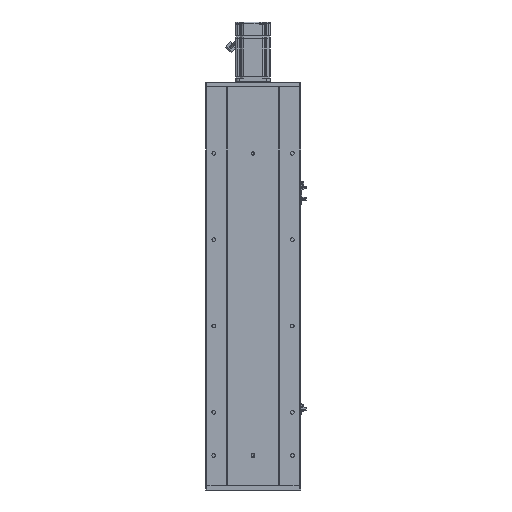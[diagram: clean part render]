
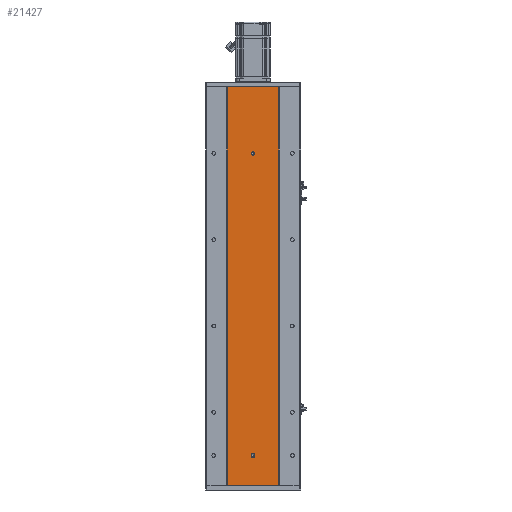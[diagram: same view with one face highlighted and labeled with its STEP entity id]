
A CAD part, front view. The second image highlights one B-rep face of the part: STEP entity #21427.
In plain terms, the highlighted planar face has unit normal (0, -1, 0).
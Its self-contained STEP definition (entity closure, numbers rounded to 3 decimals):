
#591 = ORIENTED_EDGE ( 'NONE', *, *, #30697, .F. ) ;
#650 = VERTEX_POINT ( 'NONE', #11147 ) ;
#695 = ORIENTED_EDGE ( 'NONE', *, *, #42578, .F. ) ;
#815 = CARTESIAN_POINT ( 'NONE',  ( -60., 0., 0. ) ) ;
#1606 = DIRECTION ( 'NONE',  ( 0., -1., 0. ) ) ;
#1721 = VECTOR ( 'NONE', #19203, 1000. ) ;
#2034 = VERTEX_POINT ( 'NONE', #43930 ) ;
#4707 = EDGE_CURVE ( 'NONE', #29136, #2034, #42399, .T. ) ;
#4745 = DIRECTION ( 'NONE',  ( 0., -1., 0. ) ) ;
#5155 = VECTOR ( 'NONE', #38009, 1000. ) ;
#5373 = DIRECTION ( 'NONE',  ( 0., -1., 0. ) ) ;
#5827 = VECTOR ( 'NONE', #40638, 1000. ) ;
#6574 = CARTESIAN_POINT ( 'NONE',  ( 60., 0., 0. ) ) ;
#6591 = AXIS2_PLACEMENT_3D ( 'NONE', #36197, #5373, #41374 ) ;
#8209 = EDGE_CURVE ( 'NONE', #54592, #11079, #56468, .T. ) ;
#8349 = DIRECTION ( 'NONE',  ( 0., 1., 0. ) ) ;
#8671 = DIRECTION ( 'NONE',  ( 0., 0., -1. ) ) ;
#9324 = CARTESIAN_POINT ( 'NONE',  ( -60., 0., 924. ) ) ;
#9768 = ORIENTED_EDGE ( 'NONE', *, *, #8209, .F. ) ;
#10202 = VERTEX_POINT ( 'NONE', #6574 ) ;
#11079 = VERTEX_POINT ( 'NONE', #45004 ) ;
#11147 = CARTESIAN_POINT ( 'NONE',  ( 0., 0., 766. ) ) ;
#11238 = CARTESIAN_POINT ( 'NONE',  ( 0., 0., 770. ) ) ;
#11879 = VERTEX_POINT ( 'NONE', #45952 ) ;
#11957 = DIRECTION ( 'NONE',  ( 1., 0., 0. ) ) ;
#11962 = FACE_BOUND ( 'NONE', #25524, .T. ) ;
#13268 = CARTESIAN_POINT ( 'NONE',  ( 0., 0., 64.5 ) ) ;
#14228 = CARTESIAN_POINT ( 'NONE',  ( 60., 0., 924. ) ) ;
#14562 = ORIENTED_EDGE ( 'NONE', *, *, #60592, .F. ) ;
#16592 = EDGE_CURVE ( 'NONE', #52681, #29136, #27369, .T. ) ;
#17605 = AXIS2_PLACEMENT_3D ( 'NONE', #57618, #1606, #26849 ) ;
#18481 = DIRECTION ( 'NONE',  ( 0., 0., 1. ) ) ;
#18602 = CARTESIAN_POINT ( 'NONE',  ( -4., 0., 71.5 ) ) ;
#19203 = DIRECTION ( 'NONE',  ( 0., 0., -1. ) ) ;
#21270 = ORIENTED_EDGE ( 'NONE', *, *, #16592, .F. ) ;
#21362 = DIRECTION ( 'NONE',  ( 0., -1., 0. ) ) ;
#21427 = ADVANCED_FACE ( 'NONE', ( #25622, #11962, #64999 ), #55137, .F. ) ;
#21935 = ORIENTED_EDGE ( 'NONE', *, *, #49654, .F. ) ;
#23040 = EDGE_LOOP ( 'NONE', ( #14562, #21935 ) ) ;
#25064 = AXIS2_PLACEMENT_3D ( 'NONE', #26859, #58057, #57844 ) ;
#25216 = CARTESIAN_POINT ( 'NONE',  ( 0., 0., 68.5 ) ) ;
#25524 = EDGE_LOOP ( 'NONE', ( #591, #28639, #21270, #37279, #62823 ) ) ;
#25622 = FACE_BOUND ( 'NONE', #23040, .T. ) ;
#26692 = LINE ( 'NONE', #9324, #1721 ) ;
#26849 = DIRECTION ( 'NONE',  ( 0., 0., -1. ) ) ;
#26859 = CARTESIAN_POINT ( 'NONE',  ( 0., 0., 71.5 ) ) ;
#27108 = EDGE_CURVE ( 'NONE', #32762, #52681, #53762, .T. ) ;
#27228 = CIRCLE ( 'NONE', #17605, 4. ) ;
#27369 = LINE ( 'NONE', #41181, #36220 ) ;
#28639 = ORIENTED_EDGE ( 'NONE', *, *, #4707, .F. ) ;
#29136 = VERTEX_POINT ( 'NONE', #29708 ) ;
#29708 = CARTESIAN_POINT ( 'NONE',  ( 4., 0., 71.5 ) ) ;
#30697 = EDGE_CURVE ( 'NONE', #2034, #11879, #42464, .T. ) ;
#31138 = CARTESIAN_POINT ( 'NONE',  ( 4., 0., 68.5 ) ) ;
#31588 = LINE ( 'NONE', #815, #5827 ) ;
#31695 = DIRECTION ( 'NONE',  ( 0., 0., -1. ) ) ;
#32189 = CARTESIAN_POINT ( 'NONE',  ( -60., 0., 924. ) ) ;
#32762 = VERTEX_POINT ( 'NONE', #13268 ) ;
#32965 = ORIENTED_EDGE ( 'NONE', *, *, #55811, .T. ) ;
#35889 = CARTESIAN_POINT ( 'NONE',  ( -60., 0., 924. ) ) ;
#36197 = CARTESIAN_POINT ( 'NONE',  ( 0., 0., 68.5 ) ) ;
#36220 = VECTOR ( 'NONE', #61823, 1000. ) ;
#37279 = ORIENTED_EDGE ( 'NONE', *, *, #27108, .F. ) ;
#38009 = DIRECTION ( 'NONE',  ( 0., 0., -1. ) ) ;
#38088 = AXIS2_PLACEMENT_3D ( 'NONE', #11238, #21362, #31695 ) ;
#39177 = ORIENTED_EDGE ( 'NONE', *, *, #56177, .T. ) ;
#40638 = DIRECTION ( 'NONE',  ( 1., 0., 0. ) ) ;
#41181 = CARTESIAN_POINT ( 'NONE',  ( 4., 0., 71.5 ) ) ;
#41374 = DIRECTION ( 'NONE',  ( 0., 0., -1. ) ) ;
#42113 = VERTEX_POINT ( 'NONE', #51082 ) ;
#42399 = CIRCLE ( 'NONE', #25064, 4. ) ;
#42464 = LINE ( 'NONE', #18602, #45507 ) ;
#42578 = EDGE_CURVE ( 'NONE', #11079, #10202, #53434, .T. ) ;
#42786 = VECTOR ( 'NONE', #11957, 1000. ) ;
#43930 = CARTESIAN_POINT ( 'NONE',  ( -4., 0., 71.5 ) ) ;
#45004 = CARTESIAN_POINT ( 'NONE',  ( 60., 0., 924. ) ) ;
#45507 = VECTOR ( 'NONE', #8671, 1000. ) ;
#45952 = CARTESIAN_POINT ( 'NONE',  ( -4., 0., 68.5 ) ) ;
#49654 = EDGE_CURVE ( 'NONE', #42113, #650, #55759, .T. ) ;
#51082 = CARTESIAN_POINT ( 'NONE',  ( 0., 0., 774. ) ) ;
#51953 = AXIS2_PLACEMENT_3D ( 'NONE', #54476, #8349, #18481 ) ;
#52681 = VERTEX_POINT ( 'NONE', #31138 ) ;
#53434 = LINE ( 'NONE', #14228, #5155 ) ;
#53762 = CIRCLE ( 'NONE', #6591, 4. ) ;
#54355 = AXIS2_PLACEMENT_3D ( 'NONE', #25216, #4745, #66557 ) ;
#54476 = CARTESIAN_POINT ( 'NONE',  ( -60., 0., 924. ) ) ;
#54592 = VERTEX_POINT ( 'NONE', #35889 ) ;
#55137 = PLANE ( 'NONE',  #51953 ) ;
#55759 = CIRCLE ( 'NONE', #38088, 4. ) ;
#55811 = EDGE_CURVE ( 'NONE', #61904, #10202, #31588, .T. ) ;
#56177 = EDGE_CURVE ( 'NONE', #54592, #61904, #26692, .T. ) ;
#56468 = LINE ( 'NONE', #32189, #42786 ) ;
#56623 = EDGE_LOOP ( 'NONE', ( #32965, #695, #9768, #39177 ) ) ;
#57618 = CARTESIAN_POINT ( 'NONE',  ( 0., 0., 770. ) ) ;
#57844 = DIRECTION ( 'NONE',  ( 0., 0., -1. ) ) ;
#58057 = DIRECTION ( 'NONE',  ( 0., -1., 0. ) ) ;
#59071 = CARTESIAN_POINT ( 'NONE',  ( -60., 0., 0. ) ) ;
#60592 = EDGE_CURVE ( 'NONE', #650, #42113, #27228, .T. ) ;
#61823 = DIRECTION ( 'NONE',  ( 0., 0., 1. ) ) ;
#61904 = VERTEX_POINT ( 'NONE', #59071 ) ;
#62724 = EDGE_CURVE ( 'NONE', #11879, #32762, #65203, .T. ) ;
#62823 = ORIENTED_EDGE ( 'NONE', *, *, #62724, .F. ) ;
#64999 = FACE_OUTER_BOUND ( 'NONE', #56623, .T. ) ;
#65203 = CIRCLE ( 'NONE', #54355, 4. ) ;
#66557 = DIRECTION ( 'NONE',  ( 0., 0., -1. ) ) ;
